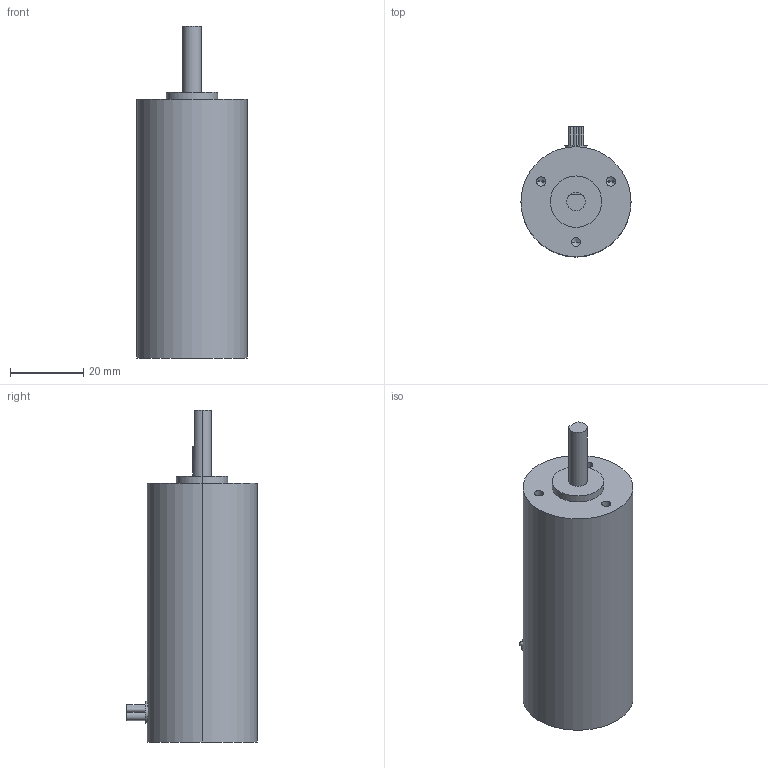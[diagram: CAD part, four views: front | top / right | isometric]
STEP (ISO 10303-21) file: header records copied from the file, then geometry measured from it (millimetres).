
FILE_DESCRIPTION (( 'STEP AP214' ), '1' );
FILE_NAME ('BD-3070.STEP', '2024-10-25T09:10:37', ( '' ), ( '' ), 'SwSTEP 2.0', 'SolidWorks 2024', '' );
FILE_SCHEMA (( 'AUTOMOTIVE_DESIGN' ));
Length unit declared in the file: millimetre
Products named in the file (1): BD-3070
Bounding box: 30 x 35.5 x 90.5 mm (x, y, z)
Volume: 50496.3 mm3; surface area: 8622.2 mm2
Topology: 1 solids, 1 shells, 39 faces, 84 edges, 51 vertices
Faces by surface type: cylinder 22, plane 11, cone 6
Entity records: 1115 total; most frequent: CARTESIAN_POINT 233, DIRECTION 200, ORIENTED_EDGE 156, AXIS2_PLACEMENT_3D 84, EDGE_CURVE 78, VERTEX_POINT 51, EDGE_LOOP 49, CIRCLE 44
